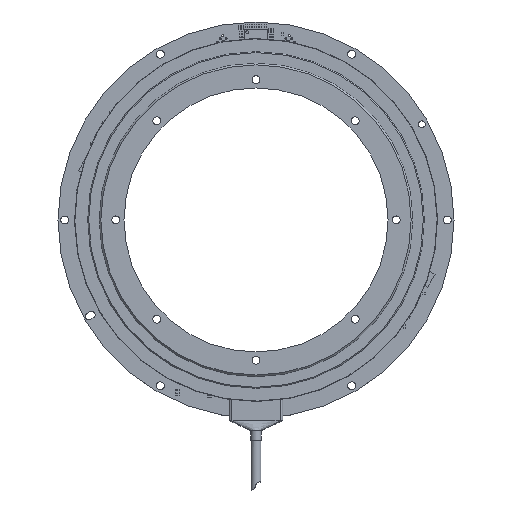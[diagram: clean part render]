
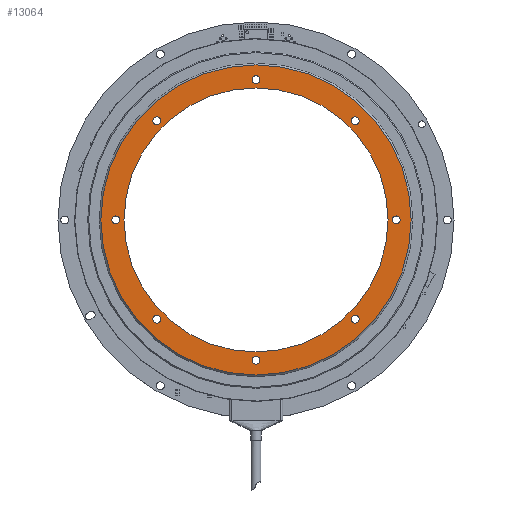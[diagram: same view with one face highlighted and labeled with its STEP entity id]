
A CAD part, top view. The second image highlights one B-rep face of the part: STEP entity #13064.
In plain terms, the highlighted planar face has unit normal (0, 0, 1) as drawn and (0, 1, 0) by its records, which use the part's own axes.
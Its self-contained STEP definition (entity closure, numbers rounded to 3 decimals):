
#1376=FACE_BOUND('',#3314,.T.);
#1377=FACE_BOUND('',#3315,.T.);
#1378=FACE_BOUND('',#3316,.T.);
#1379=FACE_BOUND('',#3317,.T.);
#1380=FACE_BOUND('',#3318,.T.);
#1381=FACE_BOUND('',#3319,.T.);
#1382=FACE_BOUND('',#3320,.T.);
#1383=FACE_BOUND('',#3321,.T.);
#1384=FACE_BOUND('',#3322,.T.);
#1777=PLANE('',#15182);
#2488=FACE_OUTER_BOUND('',#3313,.T.);
#3313=EDGE_LOOP('',(#12019));
#3314=EDGE_LOOP('',(#12020));
#3315=EDGE_LOOP('',(#12021));
#3316=EDGE_LOOP('',(#12022));
#3317=EDGE_LOOP('',(#12023));
#3318=EDGE_LOOP('',(#12024));
#3319=EDGE_LOOP('',(#12025));
#3320=EDGE_LOOP('',(#12026));
#3321=EDGE_LOOP('',(#12027));
#3322=EDGE_LOOP('',(#12028));
#5884=CIRCLE('',#15181,47.);
#5885=CIRCLE('',#15183,40.);
#5886=CIRCLE('',#15184,1.2);
#5887=CIRCLE('',#15185,1.2);
#5888=CIRCLE('',#15186,1.2);
#5889=CIRCLE('',#15187,1.2);
#5890=CIRCLE('',#15188,1.2);
#5891=CIRCLE('',#15189,1.2);
#5892=CIRCLE('',#15190,1.2);
#5893=CIRCLE('',#15191,1.2);
#7233=VERTEX_POINT('',#23207);
#7234=VERTEX_POINT('',#23211);
#7235=VERTEX_POINT('',#23213);
#7236=VERTEX_POINT('',#23215);
#7237=VERTEX_POINT('',#23217);
#7238=VERTEX_POINT('',#23219);
#7239=VERTEX_POINT('',#23221);
#7240=VERTEX_POINT('',#23223);
#7241=VERTEX_POINT('',#23225);
#7242=VERTEX_POINT('',#23227);
#8841=EDGE_CURVE('',#7233,#7233,#5884,.T.);
#8843=EDGE_CURVE('',#7234,#7234,#5885,.T.);
#8844=EDGE_CURVE('',#7235,#7235,#5886,.T.);
#8845=EDGE_CURVE('',#7236,#7236,#5887,.T.);
#8846=EDGE_CURVE('',#7237,#7237,#5888,.T.);
#8847=EDGE_CURVE('',#7238,#7238,#5889,.T.);
#8848=EDGE_CURVE('',#7239,#7239,#5890,.T.);
#8849=EDGE_CURVE('',#7240,#7240,#5891,.T.);
#8850=EDGE_CURVE('',#7241,#7241,#5892,.T.);
#8851=EDGE_CURVE('',#7242,#7242,#5893,.T.);
#12019=ORIENTED_EDGE('',*,*,#8841,.F.);
#12020=ORIENTED_EDGE('',*,*,#8843,.T.);
#12021=ORIENTED_EDGE('',*,*,#8844,.T.);
#12022=ORIENTED_EDGE('',*,*,#8845,.T.);
#12023=ORIENTED_EDGE('',*,*,#8846,.T.);
#12024=ORIENTED_EDGE('',*,*,#8847,.T.);
#12025=ORIENTED_EDGE('',*,*,#8848,.T.);
#12026=ORIENTED_EDGE('',*,*,#8849,.T.);
#12027=ORIENTED_EDGE('',*,*,#8850,.T.);
#12028=ORIENTED_EDGE('',*,*,#8851,.T.);
#13064=ADVANCED_FACE('',(#2488,#1376,#1377,#1378,#1379,#1380,#1381,#1382,
#1383,#1384),#1777,.T.);
#15181=AXIS2_PLACEMENT_3D('',#23208,#18817,#18818);
#15182=AXIS2_PLACEMENT_3D('',#23210,#18820,#18821);
#15183=AXIS2_PLACEMENT_3D('',#23212,#18822,#18823);
#15184=AXIS2_PLACEMENT_3D('',#23214,#18824,#18825);
#15185=AXIS2_PLACEMENT_3D('',#23216,#18826,#18827);
#15186=AXIS2_PLACEMENT_3D('',#23218,#18828,#18829);
#15187=AXIS2_PLACEMENT_3D('',#23220,#18830,#18831);
#15188=AXIS2_PLACEMENT_3D('',#23222,#18832,#18833);
#15189=AXIS2_PLACEMENT_3D('',#23224,#18834,#18835);
#15190=AXIS2_PLACEMENT_3D('',#23226,#18836,#18837);
#15191=AXIS2_PLACEMENT_3D('',#23228,#18838,#18839);
#18817=DIRECTION('center_axis',(0.,-1.,0.));
#18818=DIRECTION('ref_axis',(-1.,0.,0.));
#18820=DIRECTION('center_axis',(0.,1.,0.));
#18821=DIRECTION('ref_axis',(0.,0.,1.));
#18822=DIRECTION('center_axis',(0.,-1.,0.));
#18823=DIRECTION('ref_axis',(-1.,0.,0.));
#18824=DIRECTION('center_axis',(0.,-1.,0.));
#18825=DIRECTION('ref_axis',(-1.,0.,0.));
#18826=DIRECTION('center_axis',(0.,-1.,0.));
#18827=DIRECTION('ref_axis',(-1.,0.,0.));
#18828=DIRECTION('center_axis',(0.,-1.,0.));
#18829=DIRECTION('ref_axis',(-1.,0.,0.));
#18830=DIRECTION('center_axis',(0.,-1.,0.));
#18831=DIRECTION('ref_axis',(-1.,0.,0.));
#18832=DIRECTION('center_axis',(0.,-1.,0.));
#18833=DIRECTION('ref_axis',(-1.,0.,0.));
#18834=DIRECTION('center_axis',(0.,-1.,0.));
#18835=DIRECTION('ref_axis',(-1.,0.,0.));
#18836=DIRECTION('center_axis',(0.,-1.,0.));
#18837=DIRECTION('ref_axis',(-1.,0.,0.));
#18838=DIRECTION('center_axis',(0.,-1.,0.));
#18839=DIRECTION('ref_axis',(-1.,0.,0.));
#23207=CARTESIAN_POINT('',(47.,10.5,0.));
#23208=CARTESIAN_POINT('Origin',(0.,10.5,0.));
#23210=CARTESIAN_POINT('Origin',(0.,10.5,0.));
#23211=CARTESIAN_POINT('',(40.,10.5,0.));
#23212=CARTESIAN_POINT('Origin',(0.,10.5,0.));
#23213=CARTESIAN_POINT('',(-41.3,10.5,0.));
#23214=CARTESIAN_POINT('Origin',(-42.5,10.5,0.));
#23215=CARTESIAN_POINT('',(-28.852,10.5,30.052));
#23216=CARTESIAN_POINT('Origin',(-30.052,10.5,30.052));
#23217=CARTESIAN_POINT('',(1.2,10.5,42.5));
#23218=CARTESIAN_POINT('Origin',(0.,10.5,42.5));
#23219=CARTESIAN_POINT('',(31.252,10.5,30.052));
#23220=CARTESIAN_POINT('Origin',(30.052,10.5,30.052));
#23221=CARTESIAN_POINT('',(43.7,10.5,0.));
#23222=CARTESIAN_POINT('Origin',(42.5,10.5,0.));
#23223=CARTESIAN_POINT('',(31.252,10.5,-30.052));
#23224=CARTESIAN_POINT('Origin',(30.052,10.5,-30.052));
#23225=CARTESIAN_POINT('',(1.2,10.5,-42.5));
#23226=CARTESIAN_POINT('Origin',(0.,10.5,-42.5));
#23227=CARTESIAN_POINT('',(-28.852,10.5,-30.052));
#23228=CARTESIAN_POINT('Origin',(-30.052,10.5,-30.052));
